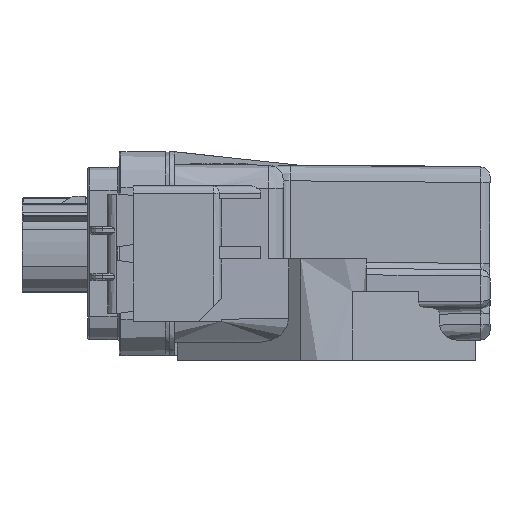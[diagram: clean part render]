
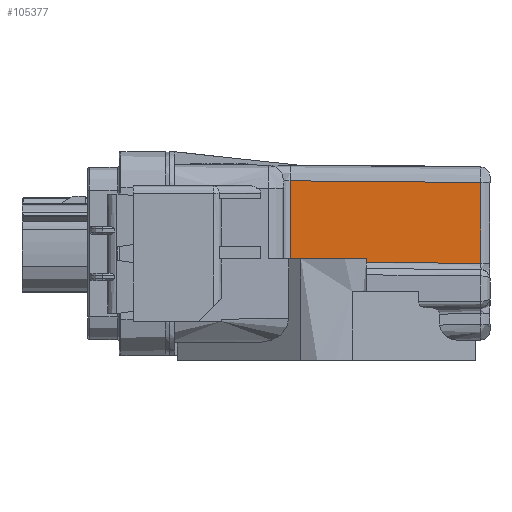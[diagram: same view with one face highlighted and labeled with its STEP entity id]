
A CAD part, front view. The second image highlights one B-rep face of the part: STEP entity #105377.
In plain terms, the highlighted planar face has unit normal (0.009, -1, 0.009).
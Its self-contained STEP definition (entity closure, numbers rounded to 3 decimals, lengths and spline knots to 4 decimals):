
#1330=B_SPLINE_CURVE_WITH_KNOTS('',3,(#175035,#175036,#175037,#175038,#175039,
#175040,#175041,#175042,#175043,#175044,#175045,#175046,#175047,#175048,
#175049,#175050),.UNSPECIFIED.,.F.,.F.,(4,3,3,3,3,4),(0.,0.0883,
0.3333,0.5672,0.6667,1.),.UNSPECIFIED.);
#8413=FACE_OUTER_BOUND('',#14010,.T.);
#14010=EDGE_LOOP('',(#85915,#85916,#85917,#85918,#85919,#85920));
#24640=LINE('',#175030,#36617);
#24641=LINE('',#175034,#36618);
#24642=LINE('',#175052,#36619);
#24643=LINE('',#175054,#36620);
#24644=LINE('',#175055,#36621);
#36617=VECTOR('',#132551,1.1265);
#36618=VECTOR('',#132554,0.394);
#36619=VECTOR('',#132555,0.6455);
#36620=VECTOR('',#132556,1.5212);
#36621=VECTOR('',#132557,0.6231);
#46618=VERTEX_POINT('',#174928);
#46619=VERTEX_POINT('',#175028);
#46620=VERTEX_POINT('',#175032);
#46621=VERTEX_POINT('',#175033);
#46622=VERTEX_POINT('',#175051);
#46623=VERTEX_POINT('',#175053);
#60056=EDGE_CURVE('',#46618,#46619,#24640,.T.);
#60057=EDGE_CURVE('',#46620,#46621,#24641,.T.);
#60058=EDGE_CURVE('',#46618,#46621,#1330,.T.);
#60059=EDGE_CURVE('',#46622,#46619,#24642,.T.);
#60060=EDGE_CURVE('',#46623,#46622,#24643,.T.);
#60061=EDGE_CURVE('',#46623,#46620,#24644,.T.);
#85915=ORIENTED_EDGE('',*,*,#60057,.T.);
#85916=ORIENTED_EDGE('',*,*,#60058,.F.);
#85917=ORIENTED_EDGE('',*,*,#60056,.T.);
#85918=ORIENTED_EDGE('',*,*,#60059,.F.);
#85919=ORIENTED_EDGE('',*,*,#60060,.F.);
#85920=ORIENTED_EDGE('',*,*,#60061,.T.);
#95045=PLANE('',#111607);
#105377=ADVANCED_FACE('',(#8413),#95045,.F.);
#111607=AXIS2_PLACEMENT_3D('',#175031,#132552,#132553);
#132551=DIRECTION('',(1.,0.009,-0.009));
#132552=DIRECTION('center_axis',(-0.009,1.,
-0.009));
#132553=DIRECTION('ref_axis',(0.,-0.009,
-1.));
#132554=DIRECTION('',(1.,0.009,0.));
#132555=DIRECTION('',(0.,-0.009,-1.));
#132556=DIRECTION('',(1.,0.009,-0.009));
#132557=DIRECTION('',(0.,-0.009,-1.));
#174928=CARTESIAN_POINT('',(0.1406,-1.689,0.1348));
#175028=CARTESIAN_POINT('',(1.267,-1.6792,0.125));
#175030=CARTESIAN_POINT('',(0.1406,-1.689,0.1348));
#175031=CARTESIAN_POINT('Origin',(-0.3037,-1.6845,1.0947));
#175032=CARTESIAN_POINT('',(-0.2541,-1.6922,0.1606));
#175033=CARTESIAN_POINT('',(0.1399,-1.6888,0.1606));
#175034=CARTESIAN_POINT('',(-0.2541,-1.6922,0.1606));
#175035=CARTESIAN_POINT('Ctrl Pts',(0.1406,-1.689,
0.1348));
#175036=CARTESIAN_POINT('Ctrl Pts',(0.1405,-1.689,
0.1355));
#175037=CARTESIAN_POINT('Ctrl Pts',(0.1405,-1.689,
0.1363));
#175038=CARTESIAN_POINT('Ctrl Pts',(0.1405,-1.689,
0.137));
#175039=CARTESIAN_POINT('Ctrl Pts',(0.1405,-1.6889,
0.1391));
#175040=CARTESIAN_POINT('Ctrl Pts',(0.1404,-1.6889,
0.1411));
#175041=CARTESIAN_POINT('Ctrl Pts',(0.1403,-1.6889,
0.1432));
#175042=CARTESIAN_POINT('Ctrl Pts',(0.1403,-1.6889,
0.1452));
#175043=CARTESIAN_POINT('Ctrl Pts',(0.1402,-1.6889,
0.1472));
#175044=CARTESIAN_POINT('Ctrl Pts',(0.1402,-1.6889,
0.1492));
#175045=CARTESIAN_POINT('Ctrl Pts',(0.1402,-1.6889,
0.1501));
#175046=CARTESIAN_POINT('Ctrl Pts',(0.1401,-1.6888,
0.1509));
#175047=CARTESIAN_POINT('Ctrl Pts',(0.1401,-1.6888,
0.1518));
#175048=CARTESIAN_POINT('Ctrl Pts',(0.1401,-1.6888,
0.1547));
#175049=CARTESIAN_POINT('Ctrl Pts',(0.14,-1.6888,
0.1576));
#175050=CARTESIAN_POINT('Ctrl Pts',(0.1399,-1.6888,
0.1606));
#175051=CARTESIAN_POINT('',(1.267,-1.6736,0.7704));
#175052=CARTESIAN_POINT('',(1.267,-1.6736,0.7704));
#175053=CARTESIAN_POINT('',(-0.2541,-1.6868,0.7837));
#175054=CARTESIAN_POINT('',(-0.2541,-1.6868,0.7837));
#175055=CARTESIAN_POINT('',(-0.2541,-1.6868,0.7837));
